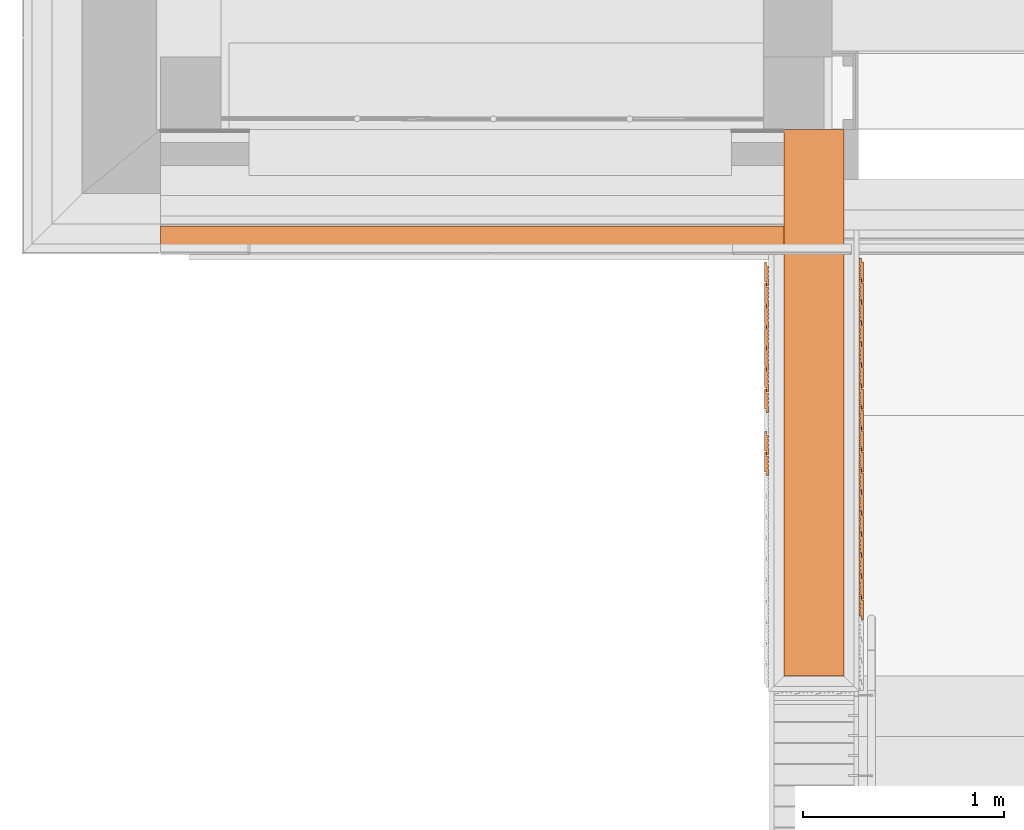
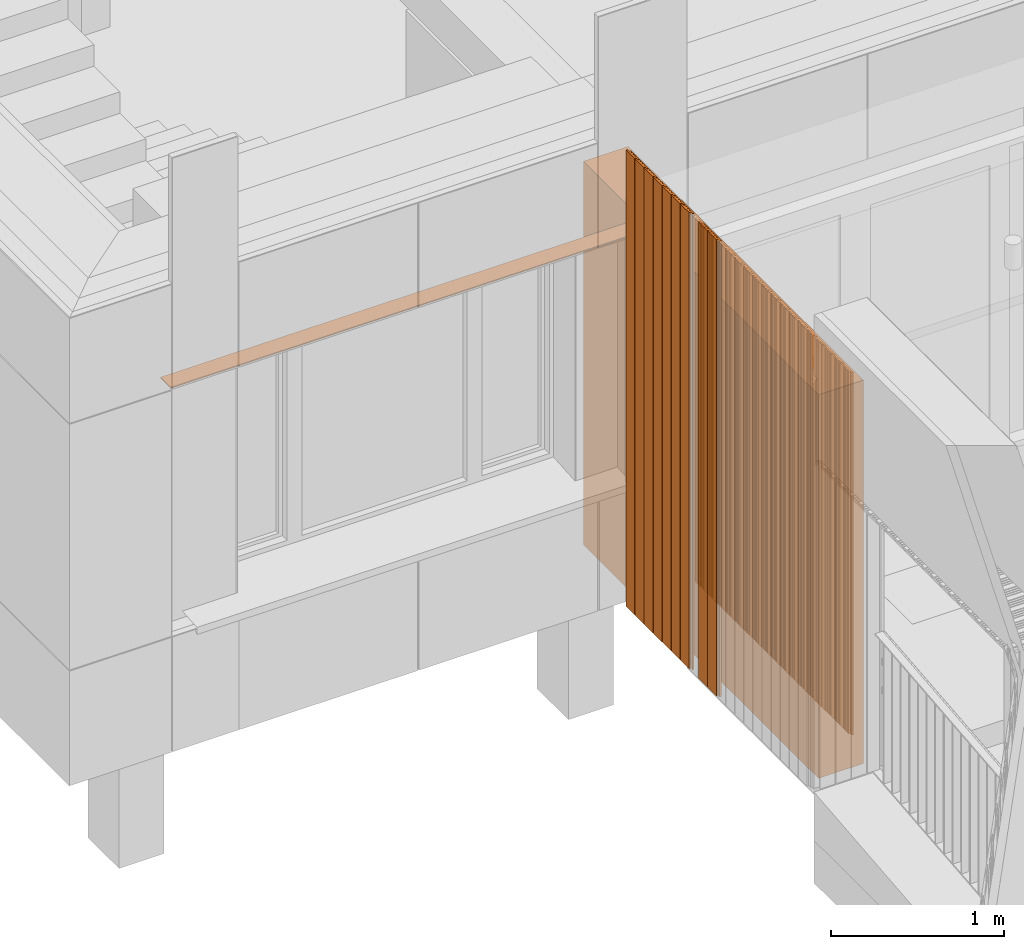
# One storey, part 346 of 418: 28 proxies.
"""IFC2X3 building model written with IfcOpenShell, lengths in millimetres."""

from ifc_helpers import new_model, entity, si_unit, converted_unit, derived_unit, money_unit, direction, frame, origin_with_axes, place, context, subcontext, project, spatial, polyline, outline, extrude, material, type_object, element, save


model = new_model("IFC2X3")

# Units and contexts
model_context = context("Model", 3, precision=0.01, world=origin_with_axes(), true_north=direction((0.0, 1.0)))
body_context = subcontext(model_context, "Body", "Model", "MODEL_VIEW")
ifc_project = project(units=[si_unit("LENGTHUNIT", "METRE", prefix="MILLI"), si_unit("AREAUNIT", "SQUARE_METRE"), si_unit("VOLUMEUNIT", "CUBIC_METRE"), converted_unit("PLANEANGLEUNIT", "DEGREE", entity("IfcPlaneAngleMeasure", 0.0174532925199), si_unit("PLANEANGLEUNIT", "RADIAN"), dimensions=[0, 0, 0, 0, 0, 0, 0]), si_unit("SOLIDANGLEUNIT", "STERADIAN"), money_unit("EUR"), converted_unit("TIMEUNIT", "Year", entity("IfcTimeMeasure", 31556926.0), si_unit("TIMEUNIT", "SECOND"), dimensions=[0, 0, 1, 0, 0, 0, 0]), si_unit("MASSUNIT", "GRAM", prefix="KILO"), si_unit("THERMODYNAMICTEMPERATUREUNIT", "DEGREE_CELSIUS"), si_unit("LUMINOUSINTENSITYUNIT", "LUMEN"), si_unit("ENERGYUNIT", "JOULE", prefix="MEGA"), derived_unit("THERMALCONDUCTANCEUNIT", [(si_unit("POWERUNIT", "WATT"), 1), (si_unit("LENGTHUNIT", "METRE"), -1), (si_unit("THERMODYNAMICTEMPERATUREUNIT", "KELVIN"), -1)]), derived_unit("SPECIFICHEATCAPACITYUNIT", [(si_unit("ENERGYUNIT", "JOULE"), 1), (si_unit("MASSUNIT", "GRAM", prefix="KILO"), -1), (si_unit("THERMODYNAMICTEMPERATUREUNIT", "KELVIN"), -1)]), derived_unit("MASSDENSITYUNIT", [(si_unit("MASSUNIT", "GRAM", prefix="KILO"), 1), (si_unit("VOLUMEUNIT", "CUBIC_METRE"), -1)])], contexts=[model_context])

# Site, building, storey
site_placement = place(None, origin_with_axes())
site = spatial("IfcSite", under=ifc_project, at=site_placement, Name="Paldiski mnt 245/1, Tallinn, Harjumaa", CompositionType="COMPLEX")
building_placement = place(site_placement, origin_with_axes())
building = spatial("IfcBuilding", under=site, at=building_placement, Name="RKAS Hoone üldnimetus (kasutust iseloomustav) -> IFC Project Manager -> SOLIBRI", CompositionType="ELEMENT")
storey_placement = place(building_placement, origin_with_axes())
storey = spatial("IfcBuildingStorey", under=building, at=storey_placement, Name="Esimene korrus", CompositionType="ELEMENT", Elevation=0.0)

# Proxies
ifc_material_1 = material(Name="Olemasolev silikaltsiitplokk")
building_element_proxy_type_1 = type_object("IfcBuildingElementProxyType", Name="Varikatuse_sein_olemasolev_300mm plokk 300", PredefinedType="NOTDEFINED")
proxy_1_placement = place(storey_placement, frame((-44190.0, -12510.0843011, 0.0), z_axis=(0.0, 0.0, 1.0), x_axis=(0.0, -1.0, 0.0)))
element("IfcBuildingElementProxy", 1, at=proxy_1_placement, inside=storey, type_object=building_element_proxy_type_1, material=ifc_material_1, Name="Varikatus", context=body_context, shape_type="SweptSolid", body=[
    extrude(outline(polyline([(0.0, -300.0), (2720.0, -300.0), (2720.0, 0.0), (0.0, 0.0), (0.0, -300.0)])), origin_with_axes(), (0.0, 0.0, 1.0), 2707.39578152),
])
ifc_material_2 = material(Name="ET-01_Puit - Konstruktsioon")
building_element_proxy_type_2 = type_object("IfcBuildingElementProxyType", Name="ET-01_Puit - Konstruktsioon 3222", PredefinedType="NOTDEFINED")
proxy_2_placement = place(storey_placement, frame((-44575.4999993, -13290.2632272, 3221.56061477), z_axis=(0.0, 0.0, 1.0), x_axis=(1.0, 0.0, 0.0)))
element("IfcBuildingElementProxy", 2, at=proxy_2_placement, inside=storey, type_object=building_element_proxy_type_2, material=ifc_material_2, Name="Varikatus", context=body_context, shape_type="SweptSolid", body=[
    extrude(outline(polyline([(0.0, 0.0), (10.4999992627, 3.55864671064e-07), (10.5000002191, 37.5260948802), (3.4999997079, 37.5260958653), (3.49999940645, 43.8885929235), (10.4999989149, 43.8885931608), (10.4999987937, 58.8277103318), (3.4999992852, 58.8277100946), (3.49999971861, 64.9546507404), (10.4999992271, 64.9546509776), (10.5000001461, 79.7831433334), (3.49999963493, 79.7831443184), (3.50000027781, 85.4238127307), (10.4999997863, 85.423812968), (10.4999994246, 100.000000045), (-0.500000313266, 100.000001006), (-0.500001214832, 120.000000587), (-10.5000010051, 120.000000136), (-10.500001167, 20.0000004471), (3.20760307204e-07, 20.0000005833), (0.0, 0.0)])), frame((0.0, 0.0, -3221.56061477), z_axis=(0.0, 0.0, 1.0), x_axis=(1.0, 0.0, 0.0)), (0.0, 0.0, 1.0), 3221.56061477),
])
proxy_3_placement = place(storey_placement, frame((-44575.4999993, -13395.2632272, 3221.56061477), z_axis=(0.0, 0.0, 1.0), x_axis=(1.0, 0.0, 0.0)))
element("IfcBuildingElementProxy", 3, at=proxy_3_placement, inside=storey, type_object=building_element_proxy_type_2, material=ifc_material_2, Name="Varikatus", context=body_context, shape_type="SweptSolid", body=[
    extrude(outline(polyline([(0.0, 0.0), (10.4999992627, 3.55871776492e-07), (10.5000002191, 37.5260948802), (3.49999970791, 37.5260958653), (3.49999940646, 43.8885929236), (10.499998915, 43.8885931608), (10.4999987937, 58.8277103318), (3.49999928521, 58.8277100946), (3.49999971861, 64.9546507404), (10.4999992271, 64.9546509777), (10.5000001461, 79.7831433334), (3.49999963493, 79.7831443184), (3.50000027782, 85.4238127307), (10.4999997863, 85.423812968), (10.4999994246, 100.000000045), (-0.500000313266, 100.000001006), (-0.500001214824, 120.000000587), (-10.5000010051, 120.000000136), (-10.500001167, 20.0000004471), (3.20767412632e-07, 20.0000005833), (0.0, 0.0)])), frame((0.0, 0.0, -3221.56061477), z_axis=(0.0, 0.0, 1.0), x_axis=(1.0, 0.0, 0.0)), (0.0, 0.0, 1.0), 3221.56061477),
])
proxy_4_placement = place(storey_placement, frame((-44575.4999993, -13500.2632272, 3221.56061477), z_axis=(0.0, 0.0, 1.0), x_axis=(1.0, 0.0, 0.0)))
element("IfcBuildingElementProxy", 4, at=proxy_4_placement, inside=storey, type_object=building_element_proxy_type_2, material=ifc_material_2, Name="Varikatus", context=body_context, shape_type="SweptSolid", body=[
    extrude(outline(polyline([(0.0, 0.0), (10.4999992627, 3.55868223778e-07), (10.5000002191, 37.5260948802), (3.49999970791, 37.5260958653), (3.49999940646, 43.8885929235), (10.4999989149, 43.8885931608), (10.4999987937, 58.8277103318), (3.49999928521, 58.8277100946), (3.49999971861, 64.9546507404), (10.4999992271, 64.9546509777), (10.5000001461, 79.7831433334), (3.49999963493, 79.7831443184), (3.50000027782, 85.4238127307), (10.4999997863, 85.423812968), (10.4999994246, 100.000000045), (-0.500000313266, 100.000001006), (-0.500001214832, 120.000000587), (-10.5000010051, 120.000000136), (-10.500001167, 20.0000004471), (3.20760307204e-07, 20.0000005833), (0.0, 0.0)])), frame((0.0, 0.0, -3221.56061477), z_axis=(0.0, 0.0, 1.0), x_axis=(1.0, 0.0, 0.0)), (0.0, 0.0, 1.0), 3221.56061477),
])
proxy_5_placement = place(storey_placement, frame((-44575.4999993, -13605.2632272, 3221.56061477), z_axis=(0.0, 0.0, 1.0), x_axis=(1.0, 0.0, 0.0)))
element("IfcBuildingElementProxy", 5, at=proxy_5_placement, inside=storey, type_object=building_element_proxy_type_2, material=ifc_material_2, Name="Varikatus", context=body_context, shape_type="SweptSolid", body=[
    extrude(outline(polyline([(0.0, 0.0), (10.4999992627, 3.55875329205e-07), (10.5000002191, 37.5260948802), (3.4999997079, 37.5260958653), (3.49999940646, 43.8885929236), (10.499998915, 43.8885931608), (10.4999987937, 58.8277103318), (3.49999928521, 58.8277100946), (3.49999971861, 64.9546507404), (10.4999992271, 64.9546509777), (10.5000001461, 79.7831433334), (3.49999963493, 79.7831443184), (3.50000027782, 85.4238127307), (10.4999997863, 85.423812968), (10.4999994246, 100.000000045), (-0.500000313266, 100.000001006), (-0.500001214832, 120.000000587), (-10.5000010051, 120.000000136), (-10.500001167, 20.0000004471), (3.20753201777e-07, 20.0000005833), (0.0, 0.0)])), frame((0.0, 0.0, -3221.56061477), z_axis=(0.0, 0.0, 1.0), x_axis=(1.0, 0.0, 0.0)), (0.0, 0.0, 1.0), 3221.56061477),
])
proxy_6_placement = place(storey_placement, frame((-44575.4999993, -13710.2632272, 3221.56061477), z_axis=(0.0, 0.0, 1.0), x_axis=(1.0, 0.0, 0.0)))
element("IfcBuildingElementProxy", 6, at=proxy_6_placement, inside=storey, type_object=building_element_proxy_type_2, material=ifc_material_2, Name="Varikatus", context=body_context, shape_type="SweptSolid", body=[
    extrude(outline(polyline([(0.0, 0.0), (10.4999992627, 3.55868223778e-07), (10.5000002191, 37.5260948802), (3.4999997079, 37.5260958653), (3.49999940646, 43.8885929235), (10.499998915, 43.8885931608), (10.4999987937, 58.8277103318), (3.49999928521, 58.8277100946), (3.49999971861, 64.9546507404), (10.4999992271, 64.9546509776), (10.5000001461, 79.7831433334), (3.49999963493, 79.7831443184), (3.50000027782, 85.4238127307), (10.4999997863, 85.423812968), (10.4999994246, 100.000000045), (-0.500000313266, 100.000001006), (-0.500001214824, 120.000000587), (-10.5000010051, 120.000000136), (-10.500001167, 20.0000004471), (3.20753201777e-07, 20.0000005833), (0.0, 0.0)])), frame((0.0, 0.0, -3221.56061477), z_axis=(0.0, 0.0, 1.0), x_axis=(1.0, 0.0, 0.0)), (0.0, 0.0, 1.0), 3221.56061477),
])
proxy_7_placement = place(storey_placement, frame((-44575.4999993, -13815.2632272, 3221.56061477), z_axis=(0.0, 0.0, 1.0), x_axis=(1.0, 0.0, 0.0)))
element("IfcBuildingElementProxy", 7, at=proxy_7_placement, inside=storey, type_object=building_element_proxy_type_2, material=ifc_material_2, Name="Varikatus", context=body_context, shape_type="SweptSolid", body=[
    extrude(outline(polyline([(0.0, 0.0), (10.4999992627, 3.55861118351e-07), (10.5000002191, 37.5260948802), (3.49999970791, 37.5260958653), (3.49999940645, 43.8885929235), (10.4999989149, 43.8885931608), (10.4999987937, 58.8277103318), (3.4999992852, 58.8277100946), (3.49999971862, 64.9546507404), (10.4999992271, 64.9546509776), (10.5000001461, 79.7831433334), (3.49999963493, 79.7831443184), (3.50000027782, 85.4238127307), (10.4999997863, 85.423812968), (10.4999994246, 100.000000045), (-0.500000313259, 100.000001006), (-0.500001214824, 120.000000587), (-10.5000010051, 120.000000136), (-10.500001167, 20.0000004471), (3.20760307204e-07, 20.0000005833), (0.0, 0.0)])), frame((0.0, 0.0, -3221.56061477), z_axis=(0.0, 0.0, 1.0), x_axis=(1.0, 0.0, 0.0)), (0.0, 0.0, 1.0), 3221.56061477),
])
proxy_8_placement = place(storey_placement, frame((-44575.4999993, -13920.2632272, 3221.56061477), z_axis=(0.0, 0.0, 1.0), x_axis=(1.0, 0.0, 0.0)))
element("IfcBuildingElementProxy", 8, at=proxy_8_placement, inside=storey, type_object=building_element_proxy_type_2, material=ifc_material_2, Name="Varikatus", context=body_context, shape_type="SweptSolid", body=[
    extrude(outline(polyline([(0.0, 0.0), (10.4999992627, 3.55868223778e-07), (10.5000002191, 37.5260948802), (3.4999997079, 37.5260958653), (3.49999940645, 43.8885929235), (10.4999989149, 43.8885931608), (10.4999987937, 58.8277103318), (3.4999992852, 58.8277100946), (3.49999971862, 64.9546507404), (10.4999992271, 64.9546509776), (10.5000001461, 79.7831433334), (3.49999963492, 79.7831443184), (3.50000027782, 85.4238127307), (10.4999997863, 85.423812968), (10.4999994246, 100.000000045), (-0.500000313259, 100.000001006), (-0.500001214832, 120.000000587), (-10.5000010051, 120.000000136), (-10.500001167, 20.0000004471), (3.20760307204e-07, 20.0000005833), (0.0, 0.0)])), frame((0.0, 0.0, -3221.56061477), z_axis=(0.0, 0.0, 1.0), x_axis=(1.0, 0.0, 0.0)), (0.0, 0.0, 1.0), 3221.56061477),
])
proxy_9_placement = place(storey_placement, frame((-44575.4999993, -14130.2632272, 3221.56061477), z_axis=(0.0, 0.0, 1.0), x_axis=(1.0, 0.0, 0.0)))
element("IfcBuildingElementProxy", 9, at=proxy_9_placement, inside=storey, type_object=building_element_proxy_type_2, material=ifc_material_2, Name="Varikatus", context=body_context, shape_type="SweptSolid", body=[
    extrude(outline(polyline([(0.0, 0.0), (10.4999992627, 3.55857565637e-07), (10.5000002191, 37.5260948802), (3.4999997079, 37.5260958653), (3.49999940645, 43.8885929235), (10.4999989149, 43.8885931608), (10.4999987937, 58.8277103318), (3.4999992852, 58.8277100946), (3.49999971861, 64.9546507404), (10.4999992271, 64.9546509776), (10.5000001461, 79.7831433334), (3.49999963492, 79.7831443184), (3.50000027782, 85.4238127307), (10.4999997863, 85.423812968), (10.4999994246, 100.000000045), (-0.500000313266, 100.000001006), (-0.500001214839, 120.000000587), (-10.5000010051, 120.000000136), (-10.500001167, 20.0000004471), (3.20760307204e-07, 20.0000005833), (0.0, 0.0)])), frame((0.0, 0.0, -3221.56061477), z_axis=(0.0, 0.0, 1.0), x_axis=(1.0, 0.0, 0.0)), (0.0, 0.0, 1.0), 3221.56061477),
])
proxy_10_placement = place(storey_placement, frame((-44575.4999993, -14235.2632272, 3221.56061477), z_axis=(0.0, 0.0, 1.0), x_axis=(1.0, 0.0, 0.0)))
element("IfcBuildingElementProxy", 10, at=proxy_10_placement, inside=storey, type_object=building_element_proxy_type_2, material=ifc_material_2, Name="Varikatus", context=body_context, shape_type="SweptSolid", body=[
    extrude(outline(polyline([(0.0, 0.0), (10.4999992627, 3.55868223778e-07), (10.5000002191, 37.5260948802), (3.4999997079, 37.5260958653), (3.49999940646, 43.8885929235), (10.499998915, 43.8885931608), (10.4999987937, 58.8277103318), (3.4999992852, 58.8277100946), (3.49999971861, 64.9546507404), (10.4999992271, 64.9546509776), (10.5000001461, 79.7831433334), (3.49999963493, 79.7831443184), (3.50000027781, 85.4238127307), (10.4999997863, 85.423812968), (10.4999994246, 100.000000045), (-0.500000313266, 100.000001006), (-0.500001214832, 120.000000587), (-10.5000010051, 120.000000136), (-10.500001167, 20.0000004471), (3.20760307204e-07, 20.0000005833), (0.0, 0.0)])), frame((0.0, 0.0, -3221.56061477), z_axis=(0.0, 0.0, 1.0), x_axis=(1.0, 0.0, 0.0)), (0.0, 0.0, 1.0), 3221.56061477),
])
building_element_proxy_type_3 = type_object("IfcBuildingElementProxyType", Name="ET-01_Puit - Konstruktsioon 2560", PredefinedType="NOTDEFINED")
proxy_11_placement = place(storey_placement, frame((-44104.5000006, -13150.2632266, 2560.10177239), z_axis=(0.0, 0.0, 1.0), x_axis=(1.0, 0.0, 0.0)))
element("IfcBuildingElementProxy", 11, at=proxy_11_placement, inside=storey, type_object=building_element_proxy_type_3, material=ifc_material_2, Name="Varikatus", context=body_context, shape_type="SweptSolid", body=[
    extrude(outline(polyline([(0.0, 0.0), (-10.4999992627, -3.55868223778e-07), (-10.5000002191, -37.5260948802), (-3.49999970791, -37.5260958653), (-3.49999940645, -43.8885929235), (-10.4999989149, -43.8885931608), (-10.4999987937, -58.8277103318), (-3.4999992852, -58.8277100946), (-3.49999971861, -64.9546507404), (-10.4999992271, -64.9546509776), (-10.5000001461, -79.7831433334), (-3.49999963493, -79.7831443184), (-3.50000027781, -85.4238127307), (-10.4999997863, -85.423812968), (-10.4999994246, -100.000000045), (0.500000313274, -100.000001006), (0.500001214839, -120.000000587), (10.5000010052, -120.000000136), (10.500001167, -20.0000004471), (-3.20760307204e-07, -20.0000005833), (0.0, 0.0)])), frame((0.0, 0.0, -2560.10177239), z_axis=(0.0, 0.0, 1.0), x_axis=(1.0, 0.0, 0.0)), (0.0, 0.0, 1.0), 2560.10177239),
])
proxy_12_placement = place(storey_placement, frame((-44104.5000006, -13255.2632266, 2560.10177239), z_axis=(0.0, 0.0, 1.0), x_axis=(1.0, 0.0, 0.0)))
element("IfcBuildingElementProxy", 12, at=proxy_12_placement, inside=storey, type_object=building_element_proxy_type_3, material=ifc_material_2, Name="Varikatus", context=body_context, shape_type="SweptSolid", body=[
    extrude(outline(polyline([(0.0, 0.0), (-10.4999992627, -3.55871776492e-07), (-10.5000002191, -37.5260948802), (-3.4999997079, -37.5260958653), (-3.49999940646, -43.8885929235), (-10.4999989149, -43.8885931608), (-10.4999987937, -58.8277103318), (-3.49999928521, -58.8277100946), (-3.4999997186, -64.9546507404), (-10.4999992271, -64.9546509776), (-10.5000001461, -79.7831433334), (-3.49999963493, -79.7831443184), (-3.50000027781, -85.4238127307), (-10.4999997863, -85.423812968), (-10.4999994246, -100.000000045), (0.500000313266, -100.000001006), (0.500001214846, -120.000000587), (10.5000010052, -120.000000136), (10.500001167, -20.0000004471), (-3.20753201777e-07, -20.0000005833), (0.0, 0.0)])), frame((0.0, 0.0, -2560.10177239), z_axis=(0.0, 0.0, 1.0), x_axis=(1.0, 0.0, 0.0)), (0.0, 0.0, 1.0), 2560.10177239),
])
proxy_13_placement = place(storey_placement, frame((-44104.5000006, -13360.2632266, 2560.10177239), z_axis=(0.0, 0.0, 1.0), x_axis=(1.0, 0.0, 0.0)))
element("IfcBuildingElementProxy", 13, at=proxy_13_placement, inside=storey, type_object=building_element_proxy_type_3, material=ifc_material_2, Name="Varikatus", context=body_context, shape_type="SweptSolid", body=[
    extrude(outline(polyline([(0.0, 0.0), (-10.4999992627, -3.55864671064e-07), (-10.5000002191, -37.5260948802), (-3.4999997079, -37.5260958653), (-3.49999940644, -43.8885929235), (-10.4999989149, -43.8885931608), (-10.4999987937, -58.8277103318), (-3.4999992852, -58.8277100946), (-3.49999971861, -64.9546507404), (-10.4999992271, -64.9546509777), (-10.5000001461, -79.7831433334), (-3.49999963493, -79.7831443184), (-3.50000027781, -85.4238127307), (-10.4999997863, -85.423812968), (-10.4999994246, -100.000000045), (0.500000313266, -100.000001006), (0.500001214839, -120.000000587), (10.5000010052, -120.000000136), (10.500001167, -20.0000004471), (-3.20753201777e-07, -20.0000005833), (0.0, 0.0)])), frame((0.0, 0.0, -2560.10177239), z_axis=(0.0, 0.0, 1.0), x_axis=(1.0, 0.0, 0.0)), (0.0, 0.0, 1.0), 2560.10177239),
])
proxy_14_placement = place(storey_placement, frame((-44104.5000006, -13465.2632266, 2560.10177239), z_axis=(0.0, 0.0, 1.0), x_axis=(1.0, 0.0, 0.0)))
element("IfcBuildingElementProxy", 14, at=proxy_14_placement, inside=storey, type_object=building_element_proxy_type_3, material=ifc_material_2, Name="Varikatus", context=body_context, shape_type="SweptSolid", body=[
    extrude(outline(polyline([(0.0, 0.0), (-10.4999992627, -3.55854012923e-07), (-10.5000002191, -37.5260948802), (-3.4999997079, -37.5260958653), (-3.49999940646, -43.8885929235), (-10.4999989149, -43.8885931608), (-10.4999987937, -58.8277103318), (-3.49999928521, -58.8277100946), (-3.49999971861, -64.9546507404), (-10.4999992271, -64.9546509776), (-10.5000001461, -79.7831433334), (-3.49999963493, -79.7831443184), (-3.50000027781, -85.4238127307), (-10.4999997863, -85.423812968), (-10.4999994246, -100.000000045), (0.500000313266, -100.000001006), (0.500001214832, -120.000000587), (10.5000010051, -120.000000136), (10.500001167, -20.0000004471), (-3.20753201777e-07, -20.0000005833), (0.0, 0.0)])), frame((0.0, 0.0, -2560.10177239), z_axis=(0.0, 0.0, 1.0), x_axis=(1.0, 0.0, 0.0)), (0.0, 0.0, 1.0), 2560.10177239),
])
proxy_15_placement = place(storey_placement, frame((-44104.5000006, -13570.2632266, 2560.10177239), z_axis=(0.0, 0.0, 1.0), x_axis=(1.0, 0.0, 0.0)))
element("IfcBuildingElementProxy", 15, at=proxy_15_placement, inside=storey, type_object=building_element_proxy_type_3, material=ifc_material_2, Name="Varikatus", context=body_context, shape_type="SweptSolid", body=[
    extrude(outline(polyline([(0.0, 0.0), (-10.4999992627, -3.55871776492e-07), (-10.5000002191, -37.5260948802), (-3.4999997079, -37.5260958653), (-3.49999940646, -43.8885929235), (-10.499998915, -43.8885931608), (-10.4999987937, -58.8277103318), (-3.49999928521, -58.8277100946), (-3.49999971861, -64.9546507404), (-10.4999992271, -64.9546509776), (-10.5000001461, -79.7831433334), (-3.49999963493, -79.7831443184), (-3.50000027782, -85.4238127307), (-10.4999997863, -85.423812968), (-10.4999994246, -100.000000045), (0.500000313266, -100.000001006), (0.500001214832, -120.000000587), (10.5000010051, -120.000000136), (10.500001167, -20.0000004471), (-3.20760307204e-07, -20.0000005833), (0.0, 0.0)])), frame((0.0, 0.0, -2560.10177239), z_axis=(0.0, 0.0, 1.0), x_axis=(1.0, 0.0, 0.0)), (0.0, 0.0, 1.0), 2560.10177239),
])
proxy_16_placement = place(storey_placement, frame((-44104.5000006, -13675.2632266, 2560.10177239), z_axis=(0.0, 0.0, 1.0), x_axis=(1.0, 0.0, 0.0)))
element("IfcBuildingElementProxy", 16, at=proxy_16_placement, inside=storey, type_object=building_element_proxy_type_3, material=ifc_material_2, Name="Varikatus", context=body_context, shape_type="SweptSolid", body=[
    extrude(outline(polyline([(0.0, 0.0), (-10.4999992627, -3.55868223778e-07), (-10.5000002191, -37.5260948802), (-3.49999970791, -37.5260958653), (-3.49999940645, -43.8885929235), (-10.4999989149, -43.8885931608), (-10.4999987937, -58.8277103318), (-3.49999928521, -58.8277100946), (-3.49999971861, -64.9546507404), (-10.4999992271, -64.9546509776), (-10.5000001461, -79.7831433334), (-3.49999963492, -79.7831443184), (-3.50000027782, -85.4238127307), (-10.4999997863, -85.423812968), (-10.4999994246, -100.000000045), (0.500000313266, -100.000001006), (0.500001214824, -120.000000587), (10.5000010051, -120.000000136), (10.500001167, -20.0000004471), (-3.20753201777e-07, -20.0000005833), (0.0, 0.0)])), frame((0.0, 0.0, -2560.10177239), z_axis=(0.0, 0.0, 1.0), x_axis=(1.0, 0.0, 0.0)), (0.0, 0.0, 1.0), 2560.10177239),
])
proxy_17_placement = place(storey_placement, frame((-44104.5000006, -13780.2632266, 2560.10177239), z_axis=(0.0, 0.0, 1.0), x_axis=(1.0, 0.0, 0.0)))
element("IfcBuildingElementProxy", 17, at=proxy_17_placement, inside=storey, type_object=building_element_proxy_type_3, material=ifc_material_2, Name="Varikatus", context=body_context, shape_type="SweptSolid", body=[
    extrude(outline(polyline([(0.0, 0.0), (-10.4999992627, -3.55861118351e-07), (-10.5000002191, -37.5260948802), (-3.49999970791, -37.5260958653), (-3.49999940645, -43.8885929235), (-10.4999989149, -43.8885931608), (-10.4999987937, -58.8277103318), (-3.4999992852, -58.8277100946), (-3.4999997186, -64.9546507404), (-10.4999992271, -64.9546509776), (-10.5000001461, -79.7831433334), (-3.49999963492, -79.7831443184), (-3.50000027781, -85.4238127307), (-10.4999997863, -85.423812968), (-10.4999994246, -100.000000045), (0.500000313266, -100.000001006), (0.500001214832, -120.000000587), (10.5000010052, -120.000000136), (10.500001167, -20.0000004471), (-3.20753201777e-07, -20.0000005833), (0.0, 0.0)])), frame((0.0, 0.0, -2560.10177239), z_axis=(0.0, 0.0, 1.0), x_axis=(1.0, 0.0, 0.0)), (0.0, 0.0, 1.0), 2560.10177239),
])
proxy_18_placement = place(storey_placement, frame((-44104.5000006, -13885.2632266, 2560.10177239), z_axis=(0.0, 0.0, 1.0), x_axis=(1.0, 0.0, 0.0)))
element("IfcBuildingElementProxy", 18, at=proxy_18_placement, inside=storey, type_object=building_element_proxy_type_3, material=ifc_material_2, Name="Varikatus", context=body_context, shape_type="SweptSolid", body=[
    extrude(outline(polyline([(0.0, 0.0), (-10.4999992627, -3.55871776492e-07), (-10.5000002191, -37.5260948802), (-3.4999997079, -37.5260958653), (-3.49999940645, -43.8885929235), (-10.4999989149, -43.8885931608), (-10.4999987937, -58.8277103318), (-3.4999992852, -58.8277100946), (-3.49999971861, -64.9546507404), (-10.4999992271, -64.9546509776), (-10.5000001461, -79.7831433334), (-3.49999963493, -79.7831443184), (-3.50000027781, -85.4238127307), (-10.4999997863, -85.423812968), (-10.4999994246, -100.000000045), (0.500000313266, -100.000001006), (0.500001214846, -120.000000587), (10.5000010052, -120.000000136), (10.500001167, -20.0000004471), (-3.20753201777e-07, -20.0000005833), (0.0, 0.0)])), frame((0.0, 0.0, -2560.10177239), z_axis=(0.0, 0.0, 1.0), x_axis=(1.0, 0.0, 0.0)), (0.0, 0.0, 1.0), 2560.10177239),
])
proxy_19_placement = place(storey_placement, frame((-44104.5000006, -13990.2632266, 2560.10177239), z_axis=(0.0, 0.0, 1.0), x_axis=(1.0, 0.0, 0.0)))
element("IfcBuildingElementProxy", 19, at=proxy_19_placement, inside=storey, type_object=building_element_proxy_type_3, material=ifc_material_2, Name="Varikatus", context=body_context, shape_type="SweptSolid", body=[
    extrude(outline(polyline([(0.0, 0.0), (-10.4999992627, -3.55875329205e-07), (-10.5000002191, -37.5260948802), (-3.49999970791, -37.5260958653), (-3.49999940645, -43.8885929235), (-10.4999989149, -43.8885931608), (-10.4999987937, -58.8277103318), (-3.49999928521, -58.8277100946), (-3.49999971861, -64.9546507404), (-10.4999992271, -64.9546509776), (-10.5000001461, -79.7831433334), (-3.49999963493, -79.7831443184), (-3.50000027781, -85.4238127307), (-10.4999997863, -85.423812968), (-10.4999994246, -100.000000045), (0.500000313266, -100.000001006), (0.500001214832, -120.000000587), (10.5000010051, -120.000000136), (10.500001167, -20.0000004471), (-3.20753201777e-07, -20.0000005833), (0.0, 0.0)])), frame((0.0, 0.0, -2560.10177239), z_axis=(0.0, 0.0, 1.0), x_axis=(1.0, 0.0, 0.0)), (0.0, 0.0, 1.0), 2560.10177239),
])
proxy_20_placement = place(storey_placement, frame((-44104.5000006, -14095.2632266, 2560.10177239), z_axis=(0.0, 0.0, 1.0), x_axis=(1.0, 0.0, 0.0)))
element("IfcBuildingElementProxy", 20, at=proxy_20_placement, inside=storey, type_object=building_element_proxy_type_3, material=ifc_material_2, Name="Varikatus", context=body_context, shape_type="SweptSolid", body=[
    extrude(outline(polyline([(0.0, 0.0), (-10.4999992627, -3.55864671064e-07), (-10.5000002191, -37.5260948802), (-3.49999970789, -37.5260958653), (-3.49999940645, -43.8885929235), (-10.4999989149, -43.8885931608), (-10.4999987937, -58.8277103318), (-3.4999992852, -58.8277100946), (-3.49999971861, -64.9546507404), (-10.4999992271, -64.9546509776), (-10.5000001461, -79.7831433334), (-3.49999963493, -79.7831443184), (-3.5000002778, -85.4238127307), (-10.4999997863, -85.423812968), (-10.4999994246, -100.000000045), (0.500000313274, -100.000001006), (0.500001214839, -120.000000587), (10.5000010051, -120.000000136), (10.500001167, -20.0000004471), (-3.20753201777e-07, -20.0000005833), (0.0, 0.0)])), frame((0.0, 0.0, -2560.10177239), z_axis=(0.0, 0.0, 1.0), x_axis=(1.0, 0.0, 0.0)), (0.0, 0.0, 1.0), 2560.10177239),
])
proxy_21_placement = place(storey_placement, frame((-44104.5000006, -14200.2632266, 2560.10177239), z_axis=(0.0, 0.0, 1.0), x_axis=(1.0, 0.0, 0.0)))
element("IfcBuildingElementProxy", 21, at=proxy_21_placement, inside=storey, type_object=building_element_proxy_type_3, material=ifc_material_2, Name="Varikatus", context=body_context, shape_type="SweptSolid", body=[
    extrude(outline(polyline([(0.0, 0.0), (-10.4999992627, -3.55866447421e-07), (-10.5000002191, -37.5260948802), (-3.4999997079, -37.5260958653), (-3.49999940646, -43.8885929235), (-10.4999989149, -43.8885931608), (-10.4999987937, -58.8277103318), (-3.4999992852, -58.8277100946), (-3.49999971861, -64.9546507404), (-10.4999992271, -64.9546509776), (-10.5000001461, -79.7831433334), (-3.49999963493, -79.7831443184), (-3.50000027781, -85.4238127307), (-10.4999997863, -85.423812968), (-10.4999994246, -100.000000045), (0.500000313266, -100.000001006), (0.500001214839, -120.000000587), (10.5000010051, -120.000000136), (10.500001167, -20.0000004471), (-3.20753201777e-07, -20.0000005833), (0.0, 0.0)])), frame((0.0, 0.0, -2560.10177239), z_axis=(0.0, 0.0, 1.0), x_axis=(1.0, 0.0, 0.0)), (0.0, 0.0, 1.0), 2560.10177239),
])
proxy_22_placement = place(storey_placement, frame((-44104.5000006, -14305.2632266, 2560.10177239), z_axis=(0.0, 0.0, 1.0), x_axis=(1.0, 0.0, 0.0)))
element("IfcBuildingElementProxy", 22, at=proxy_22_placement, inside=storey, type_object=building_element_proxy_type_3, material=ifc_material_2, Name="Varikatus", context=body_context, shape_type="SweptSolid", body=[
    extrude(outline(polyline([(0.0, 0.0), (-10.4999992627, -3.55864671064e-07), (-10.5000002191, -37.5260948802), (-3.4999997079, -37.5260958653), (-3.49999940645, -43.8885929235), (-10.4999989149, -43.8885931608), (-10.4999987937, -58.8277103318), (-3.4999992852, -58.8277100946), (-3.49999971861, -64.9546507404), (-10.4999992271, -64.9546509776), (-10.5000001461, -79.7831433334), (-3.49999963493, -79.7831443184), (-3.50000027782, -85.4238127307), (-10.4999997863, -85.423812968), (-10.4999994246, -100.000000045), (0.500000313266, -100.000001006), (0.500001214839, -120.000000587), (10.5000010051, -120.000000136), (10.500001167, -20.0000004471), (-3.20753201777e-07, -20.0000005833), (0.0, 0.0)])), frame((0.0, 0.0, -2560.10177239), z_axis=(0.0, 0.0, 1.0), x_axis=(1.0, 0.0, 0.0)), (0.0, 0.0, 1.0), 2560.10177239),
])
proxy_23_placement = place(storey_placement, frame((-44104.5000006, -14410.2632266, 2560.10177239), z_axis=(0.0, 0.0, 1.0), x_axis=(1.0, 0.0, 0.0)))
element("IfcBuildingElementProxy", 23, at=proxy_23_placement, inside=storey, type_object=building_element_proxy_type_3, material=ifc_material_2, Name="Varikatus", context=body_context, shape_type="SweptSolid", body=[
    extrude(outline(polyline([(0.0, 0.0), (-10.4999992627, -3.55864671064e-07), (-10.5000002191, -37.5260948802), (-3.49999970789, -37.5260958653), (-3.49999940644, -43.8885929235), (-10.4999989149, -43.8885931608), (-10.4999987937, -58.8277103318), (-3.4999992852, -58.8277100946), (-3.49999971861, -64.9546507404), (-10.4999992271, -64.9546509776), (-10.5000001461, -79.7831433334), (-3.49999963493, -79.7831443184), (-3.50000027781, -85.4238127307), (-10.4999997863, -85.423812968), (-10.4999994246, -100.000000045), (0.500000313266, -100.000001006), (0.500001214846, -120.000000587), (10.5000010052, -120.000000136), (10.500001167, -20.0000004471), (-3.20753201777e-07, -20.0000005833), (0.0, 0.0)])), frame((0.0, 0.0, -2560.10177239), z_axis=(0.0, 0.0, 1.0), x_axis=(1.0, 0.0, 0.0)), (0.0, 0.0, 1.0), 2560.10177239),
])
proxy_24_placement = place(storey_placement, frame((-44104.5000006, -14515.2632266, 2560.10177239), z_axis=(0.0, 0.0, 1.0), x_axis=(1.0, 0.0, 0.0)))
element("IfcBuildingElementProxy", 24, at=proxy_24_placement, inside=storey, type_object=building_element_proxy_type_3, material=ifc_material_2, Name="Varikatus", context=body_context, shape_type="SweptSolid", body=[
    extrude(outline(polyline([(0.0, 0.0), (-10.4999992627, -3.55870000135e-07), (-10.5000002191, -37.5260948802), (-3.4999997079, -37.5260958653), (-3.49999940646, -43.8885929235), (-10.4999989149, -43.8885931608), (-10.4999987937, -58.8277103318), (-3.4999992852, -58.8277100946), (-3.49999971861, -64.9546507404), (-10.4999992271, -64.9546509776), (-10.5000001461, -79.7831433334), (-3.49999963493, -79.7831443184), (-3.50000027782, -85.4238127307), (-10.4999997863, -85.423812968), (-10.4999994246, -100.000000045), (0.500000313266, -100.000001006), (0.500001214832, -120.000000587), (10.5000010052, -120.000000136), (10.500001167, -20.0000004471), (-3.20760307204e-07, -20.0000005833), (0.0, 0.0)])), frame((0.0, 0.0, -2560.10177239), z_axis=(0.0, 0.0, 1.0), x_axis=(1.0, 0.0, 0.0)), (0.0, 0.0, 1.0), 2560.10177239),
])
proxy_25_placement = place(storey_placement, frame((-44104.5000006, -14620.2632266, 2560.10177239), z_axis=(0.0, 0.0, 1.0), x_axis=(1.0, 0.0, 0.0)))
element("IfcBuildingElementProxy", 25, at=proxy_25_placement, inside=storey, type_object=building_element_proxy_type_3, material=ifc_material_2, Name="Varikatus", context=body_context, shape_type="SweptSolid", body=[
    extrude(outline(polyline([(0.0, 0.0), (-10.4999992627, -3.55864671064e-07), (-10.5000002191, -37.5260948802), (-3.49999970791, -37.5260958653), (-3.49999940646, -43.8885929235), (-10.499998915, -43.8885931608), (-10.4999987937, -58.8277103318), (-3.49999928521, -58.8277100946), (-3.49999971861, -64.9546507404), (-10.4999992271, -64.9546509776), (-10.5000001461, -79.7831433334), (-3.49999963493, -79.7831443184), (-3.50000027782, -85.4238127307), (-10.4999997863, -85.423812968), (-10.4999994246, -100.000000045), (0.500000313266, -100.000001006), (0.500001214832, -120.000000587), (10.5000010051, -120.000000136), (10.500001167, -20.0000004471), (-3.20760307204e-07, -20.0000005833), (0.0, 0.0)])), frame((0.0, 0.0, -2560.10177239), z_axis=(0.0, 0.0, 1.0), x_axis=(1.0, 0.0, 0.0)), (0.0, 0.0, 1.0), 2560.10177239),
])
proxy_26_placement = place(storey_placement, frame((-44104.5000006, -14725.2632266, 2560.10177239), z_axis=(0.0, 0.0, 1.0), x_axis=(1.0, 0.0, 0.0)))
element("IfcBuildingElementProxy", 26, at=proxy_26_placement, inside=storey, type_object=building_element_proxy_type_3, material=ifc_material_2, Name="Varikatus", context=body_context, shape_type="SweptSolid", body=[
    extrude(outline(polyline([(0.0, 0.0), (-10.4999992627, -3.55866447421e-07), (-10.5000002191, -37.5260948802), (-3.49999970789, -37.5260958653), (-3.49999940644, -43.8885929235), (-10.4999989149, -43.8885931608), (-10.4999987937, -58.8277103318), (-3.49999928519, -58.8277100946), (-3.4999997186, -64.9546507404), (-10.4999992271, -64.9546509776), (-10.5000001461, -79.7831433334), (-3.49999963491, -79.7831443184), (-3.5000002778, -85.4238127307), (-10.4999997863, -85.423812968), (-10.4999994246, -100.000000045), (0.500000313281, -100.000001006), (0.500001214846, -120.000000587), (10.5000010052, -120.000000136), (10.500001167, -20.0000004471), (-3.20746096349e-07, -20.0000005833), (0.0, 0.0)])), frame((0.0, 0.0, -2560.10177239), z_axis=(0.0, 0.0, 1.0), x_axis=(1.0, 0.0, 0.0)), (0.0, 0.0, 1.0), 2560.10177239),
])
proxy_27_placement = place(storey_placement, frame((-44104.5000006, -14830.2632266, 2560.10177239), z_axis=(0.0, 0.0, 1.0), x_axis=(1.0, 0.0, 0.0)))
element("IfcBuildingElementProxy", 27, at=proxy_27_placement, inside=storey, type_object=building_element_proxy_type_3, material=ifc_material_2, Name="Varikatus", context=body_context, shape_type="SweptSolid", body=[
    extrude(outline(polyline([(0.0, 0.0), (-10.4999992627, -3.55866447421e-07), (-10.5000002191, -37.5260948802), (-3.49999970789, -37.5260958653), (-3.49999940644, -43.8885929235), (-10.4999989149, -43.8885931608), (-10.4999987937, -58.8277103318), (-3.4999992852, -58.8277100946), (-3.4999997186, -64.9546507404), (-10.4999992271, -64.9546509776), (-10.5000001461, -79.7831433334), (-3.49999963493, -79.7831443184), (-3.5000002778, -85.4238127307), (-10.4999997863, -85.423812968), (-10.4999994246, -100.000000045), (0.500000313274, -100.000001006), (0.500001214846, -120.000000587), (10.5000010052, -120.000000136), (10.500001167, -20.0000004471), (-3.20753201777e-07, -20.0000005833), (0.0, 0.0)])), frame((0.0, 0.0, -2560.10177239), z_axis=(0.0, 0.0, 1.0), x_axis=(1.0, 0.0, 0.0)), (0.0, 0.0, 1.0), 2560.10177239),
])
ifc_material_3 = material(Name="Cembrit_C060")
building_element_proxy_type_4 = type_object("IfcBuildingElementProxyType", Name="Cembrit_C060 8", PredefinedType="NOTDEFINED")
proxy_28_placement = place(storey_placement, frame((-47590.0, -13110.0843011, 2560.0), z_axis=(0.0, 0.0, 1.0), x_axis=(1.0, 0.0, 0.0)))
element("IfcBuildingElementProxy", 28, at=proxy_28_placement, inside=storey, type_object=building_element_proxy_type_4, material=ifc_material_3, Name="Cembrit C060", context=body_context, shape_type="SweptSolid", body=[
    extrude(outline(polyline([(0.0, 0.0), (3100.00007899, 0.0), (3100.00007899, 120.0), (0.0, 120.0), (0.0, 0.0)])), frame((0.0, 0.0, -8.0), z_axis=(0.0, 0.0, 1.0), x_axis=(1.0, 0.0, 0.0)), (0.0, 0.0, 1.0), 8.0),
])

save(model, "model.ifc")
